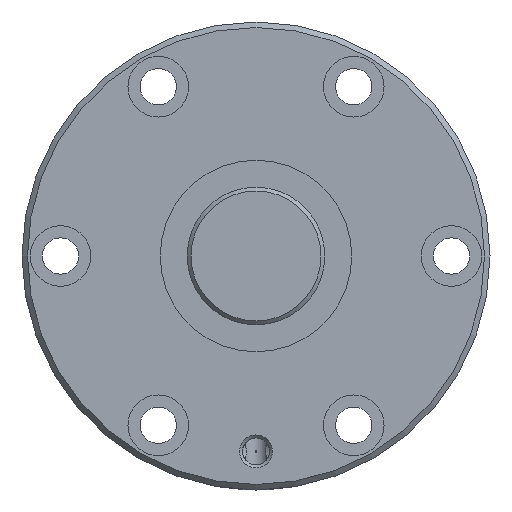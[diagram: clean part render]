
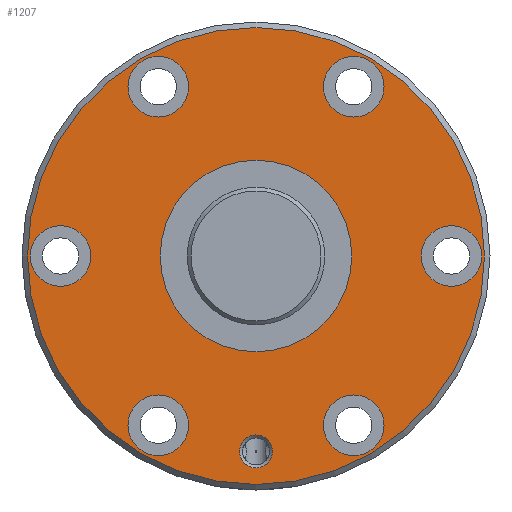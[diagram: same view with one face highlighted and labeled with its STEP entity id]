
A CAD part, left-side view. The second image highlights one B-rep face of the part: STEP entity #1207.
In plain terms, the highlighted planar face has unit normal (-1, 0, 0).
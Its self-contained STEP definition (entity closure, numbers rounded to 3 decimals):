
#208=ORIENTED_EDGE('',*,*,#495,.T.);
#209=ORIENTED_EDGE('',*,*,#496,.T.);
#210=ORIENTED_EDGE('',*,*,#497,.T.);
#211=ORIENTED_EDGE('',*,*,#498,.T.);
#212=ORIENTED_EDGE('',*,*,#499,.T.);
#213=ORIENTED_EDGE('',*,*,#500,.T.);
#214=ORIENTED_EDGE('',*,*,#501,.T.);
#215=ORIENTED_EDGE('',*,*,#502,.T.);
#216=ORIENTED_EDGE('',*,*,#494,.F.);
#494=EDGE_CURVE('',#641,#641,#730,.T.);
#495=EDGE_CURVE('',#642,#642,#731,.T.);
#496=EDGE_CURVE('',#643,#643,#732,.F.);
#497=EDGE_CURVE('',#644,#644,#733,.T.);
#498=EDGE_CURVE('',#645,#645,#734,.T.);
#499=EDGE_CURVE('',#646,#646,#735,.T.);
#500=EDGE_CURVE('',#647,#647,#736,.T.);
#501=EDGE_CURVE('',#648,#648,#737,.T.);
#502=EDGE_CURVE('',#649,#649,#738,.T.);
#641=VERTEX_POINT('',#2132);
#642=VERTEX_POINT('',#2135);
#643=VERTEX_POINT('',#2137);
#644=VERTEX_POINT('',#2139);
#645=VERTEX_POINT('',#2141);
#646=VERTEX_POINT('',#2143);
#647=VERTEX_POINT('',#2145);
#648=VERTEX_POINT('',#2147);
#649=VERTEX_POINT('',#2149);
#730=CIRCLE('',#1334,41.5);
#731=CIRCLE('',#1336,17.4);
#732=CIRCLE('',#1337,5.5);
#733=CIRCLE('',#1338,3.);
#734=CIRCLE('',#1339,5.5);
#735=CIRCLE('',#1340,5.5);
#736=CIRCLE('',#1341,5.5);
#737=CIRCLE('',#1342,5.5);
#738=CIRCLE('',#1343,5.5);
#846=EDGE_LOOP('',(#208));
#847=EDGE_LOOP('',(#209));
#848=EDGE_LOOP('',(#210));
#849=EDGE_LOOP('',(#211));
#850=EDGE_LOOP('',(#212));
#851=EDGE_LOOP('',(#213));
#852=EDGE_LOOP('',(#214));
#853=EDGE_LOOP('',(#215));
#854=EDGE_LOOP('',(#216));
#1014=FACE_BOUND('',#846,.T.);
#1015=FACE_BOUND('',#847,.T.);
#1016=FACE_BOUND('',#848,.T.);
#1017=FACE_BOUND('',#849,.T.);
#1018=FACE_BOUND('',#850,.T.);
#1019=FACE_BOUND('',#851,.T.);
#1020=FACE_BOUND('',#852,.T.);
#1021=FACE_BOUND('',#853,.T.);
#1022=FACE_BOUND('',#854,.T.);
#1158=PLANE('',#1335);
#1207=ADVANCED_FACE('',(#1014,#1015,#1016,#1017,#1018,#1019,#1020,#1021,
#1022),#1158,.T.);
#1334=AXIS2_PLACEMENT_3D('',#2131,#1568,#1569);
#1335=AXIS2_PLACEMENT_3D('',#2133,#1570,#1571);
#1336=AXIS2_PLACEMENT_3D('',#2134,#1572,#1573);
#1337=AXIS2_PLACEMENT_3D('',#2136,#1574,#1575);
#1338=AXIS2_PLACEMENT_3D('',#2138,#1576,#1577);
#1339=AXIS2_PLACEMENT_3D('',#2140,#1578,#1579);
#1340=AXIS2_PLACEMENT_3D('',#2142,#1580,#1581);
#1341=AXIS2_PLACEMENT_3D('',#2144,#1582,#1583);
#1342=AXIS2_PLACEMENT_3D('',#2146,#1584,#1585);
#1343=AXIS2_PLACEMENT_3D('',#2148,#1586,#1587);
#1568=DIRECTION('',(1.,0.,0.));
#1569=DIRECTION('',(0.,0.,-1.));
#1570=DIRECTION('',(-1.,0.,0.));
#1571=DIRECTION('',(0.,0.,1.));
#1572=DIRECTION('',(1.,0.,0.));
#1573=DIRECTION('',(0.,0.,-1.));
#1574=DIRECTION('',(-1.,0.,0.));
#1575=DIRECTION('',(0.,0.,1.));
#1576=DIRECTION('',(1.,0.,0.));
#1577=DIRECTION('',(0.,0.,-1.));
#1578=DIRECTION('',(1.,0.,0.));
#1579=DIRECTION('',(0.,0.,-1.));
#1580=DIRECTION('',(1.,0.,0.));
#1581=DIRECTION('',(0.,0.,-1.));
#1582=DIRECTION('',(1.,0.,0.));
#1583=DIRECTION('',(0.,0.,-1.));
#1584=DIRECTION('',(1.,0.,0.));
#1585=DIRECTION('',(0.,0.,-1.));
#1586=DIRECTION('',(1.,0.,0.));
#1587=DIRECTION('',(0.,0.,-1.));
#2131=CARTESIAN_POINT('',(0.,0.,0.));
#2132=CARTESIAN_POINT('',(0.,0.,-41.5));
#2133=CARTESIAN_POINT('',(0.,41.5,0.));
#2134=CARTESIAN_POINT('',(0.,0.,0.));
#2135=CARTESIAN_POINT('',(0.,0.,-17.4));
#2136=CARTESIAN_POINT('',(0.,35.5,0.));
#2137=CARTESIAN_POINT('',(0.,35.5,5.5));
#2138=CARTESIAN_POINT('',(0.,0.,-35.5));
#2139=CARTESIAN_POINT('',(0.,0.,-38.5));
#2140=CARTESIAN_POINT('',(0.,17.75,30.744));
#2141=CARTESIAN_POINT('',(0.,17.75,25.244));
#2142=CARTESIAN_POINT('',(0.,-17.75,-30.744));
#2143=CARTESIAN_POINT('',(0.,-17.75,-36.244));
#2144=CARTESIAN_POINT('',(0.,-17.75,30.744));
#2145=CARTESIAN_POINT('',(0.,-17.75,25.244));
#2146=CARTESIAN_POINT('',(0.,17.75,-30.744));
#2147=CARTESIAN_POINT('',(0.,17.75,-36.244));
#2148=CARTESIAN_POINT('',(0.,-35.5,0.));
#2149=CARTESIAN_POINT('',(0.,-35.5,-5.5));
